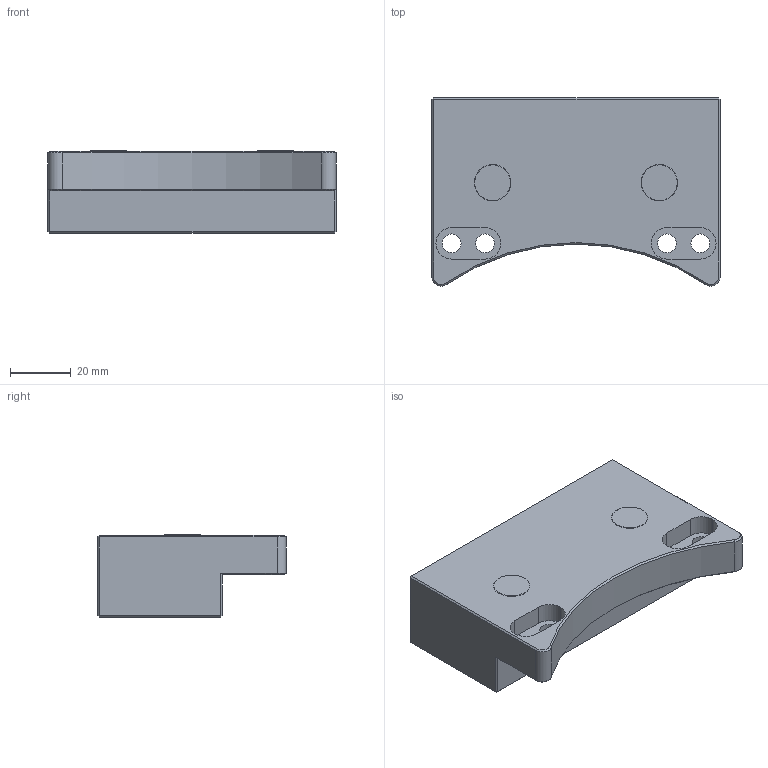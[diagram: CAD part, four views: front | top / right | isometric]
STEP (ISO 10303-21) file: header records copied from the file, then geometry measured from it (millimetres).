
FILE_DESCRIPTION (( 'STEP AP203' ), '1' );
FILE_NAME ('阨繚耀輸標撿耜.STEP', '2025-01-22T00:29:47', ( 'Windows User' ), ( 'P R C' ), 'SwSTEP 2.0', 'SolidWorks 2018', '' );
FILE_SCHEMA (( 'CONFIG_CONTROL_DESIGN' ));
Length unit declared in the file: millimetre
Products named in the file (1): 阨繚耀輸標撿耜
Bounding box: 95 x 62.13 x 27.2 mm (x, y, z)
Volume: 108878.2 mm3; surface area: 20336 mm2
Topology: 1 solids, 1 shells, 142 faces, 341 edges, 208 vertices
Faces by surface type: plane 68, cylinder 29, cone 26, bspline 19
Entity records: 5036 total; most frequent: CARTESIAN_POINT 1747, ORIENTED_EDGE 674, DIRECTION 623, EDGE_CURVE 337, LINE 223, VECTOR 223, VERTEX_POINT 208, AXIS2_PLACEMENT_3D 200
